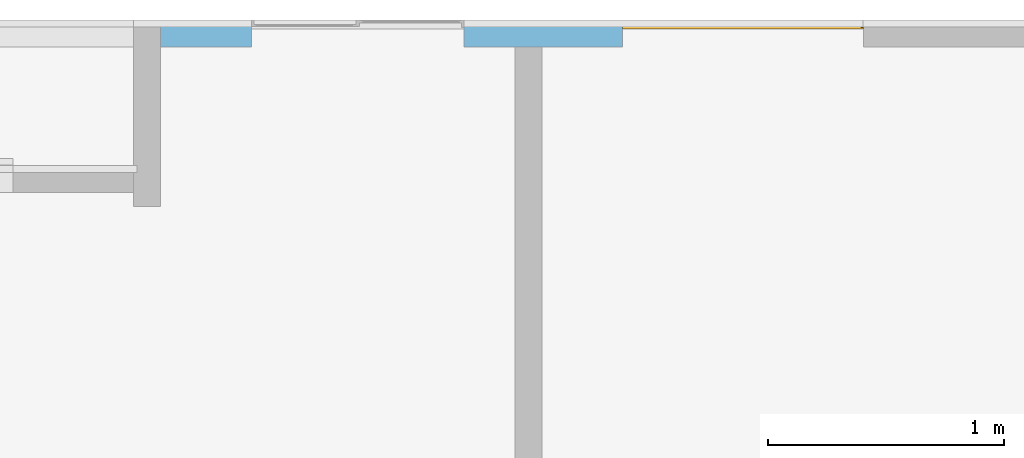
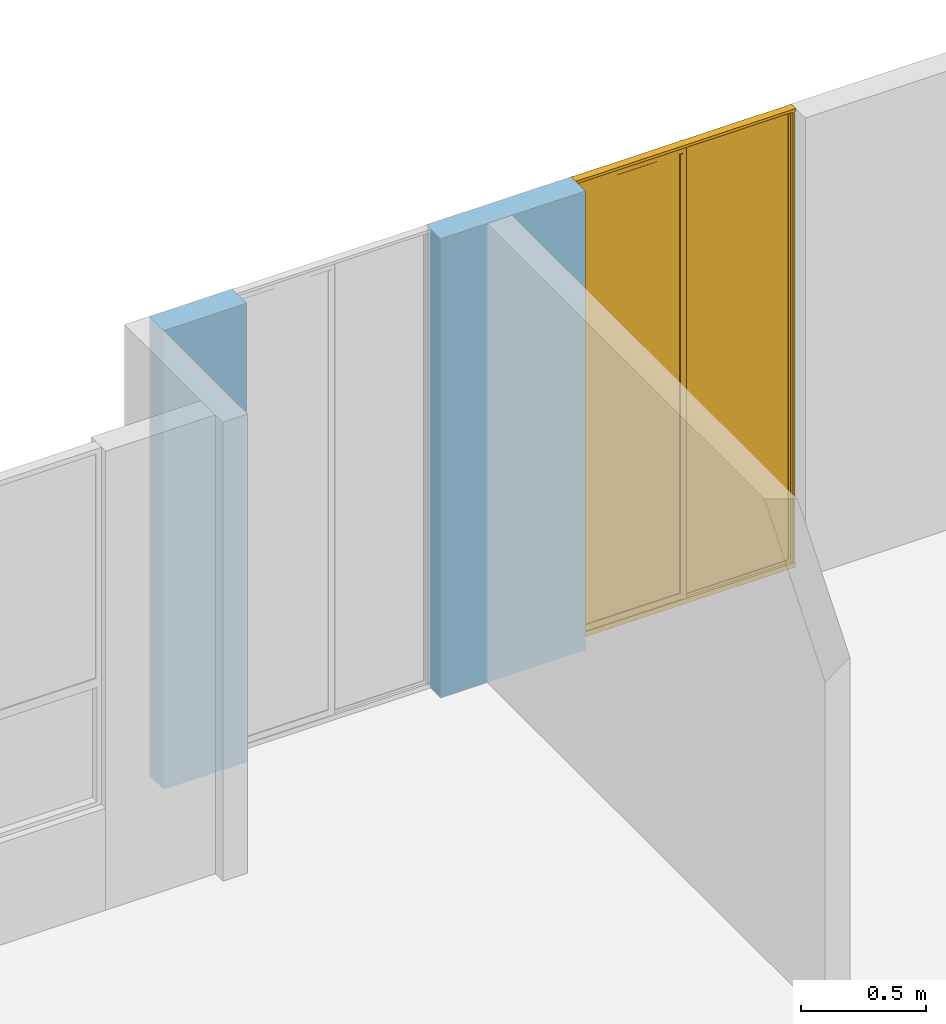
# One storey, part 26 of 51: 1 window, 2 openings, plus 1 element that does not belong to this part.
"""IFC4 building model written with IfcOpenShell, lengths in metres."""

from ifc_helpers import new_model, entity, si_unit, converted_unit, derived_unit, direction, frame, origin, place, context, subcontext, project, spatial, indexed_curve, outline, extrude, polygons, source, transform, mapped, material, constituent, constituent_set, type_object, type_shapes, element, fill, save


model = new_model("IFC4")

# Units and contexts
model_context = context("Model", 3, precision=1e-05, world=origin(), true_north=direction((6.123031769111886e-17, 1.0)))
body_context = subcontext(model_context, "Body", "Model", "MODEL_VIEW")
ifc_project = project(units=[si_unit("LENGTHUNIT", "METRE"), si_unit("AREAUNIT", "SQUARE_METRE"), si_unit("VOLUMEUNIT", "CUBIC_METRE"), converted_unit("PLANEANGLEUNIT", "DEGREE", entity("IfcRatioMeasure", 0.017453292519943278), si_unit("PLANEANGLEUNIT", "RADIAN"), dimensions=[0, 0, 0, 0, 0, 0, 0]), si_unit("MASSUNIT", "GRAM", prefix="KILO"), derived_unit("MASSDENSITYUNIT", [(si_unit("MASSUNIT", "GRAM", prefix="KILO"), 1), (si_unit("LENGTHUNIT", "METRE"), -3)]), derived_unit("IONCONCENTRATIONUNIT", [(si_unit("MASSUNIT", "GRAM", prefix="KILO"), 1), (si_unit("LENGTHUNIT", "METRE"), -3)]), derived_unit("MOMENTOFINERTIAUNIT", [(si_unit("LENGTHUNIT", "METRE"), 4)]), si_unit("TIMEUNIT", "SECOND"), si_unit("FREQUENCYUNIT", "HERTZ"), si_unit("THERMODYNAMICTEMPERATUREUNIT", "DEGREE_CELSIUS"), derived_unit("THERMALTRANSMITTANCEUNIT", [(si_unit("MASSUNIT", "GRAM", prefix="KILO"), 1), (si_unit("THERMODYNAMICTEMPERATUREUNIT", "KELVIN"), -1), (si_unit("TIMEUNIT", "SECOND"), -3)]), derived_unit("THERMALCONDUCTANCEUNIT", [(si_unit("MASSUNIT", "GRAM", prefix="KILO"), 1), (si_unit("THERMODYNAMICTEMPERATUREUNIT", "KELVIN"), -1), (si_unit("TIMEUNIT", "SECOND"), -3), (si_unit("LENGTHUNIT", "METRE"), 1)]), derived_unit("VOLUMETRICFLOWRATEUNIT", [(si_unit("LENGTHUNIT", "METRE"), 3), (si_unit("TIMEUNIT", "SECOND"), -1)]), derived_unit("MASSFLOWRATEUNIT", [(si_unit("MASSUNIT", "GRAM", prefix="KILO"), 1), (si_unit("TIMEUNIT", "SECOND"), -1)]), derived_unit("ROTATIONALFREQUENCYUNIT", [(si_unit("TIMEUNIT", "SECOND"), -1)]), si_unit("ELECTRICCURRENTUNIT", "AMPERE"), si_unit("ELECTRICVOLTAGEUNIT", "VOLT"), si_unit("POWERUNIT", "WATT"), si_unit("FORCEUNIT", "NEWTON", prefix="KILO"), si_unit("ILLUMINANCEUNIT", "LUX"), si_unit("LUMINOUSFLUXUNIT", "LUMEN"), si_unit("LUMINOUSINTENSITYUNIT", "CANDELA"), derived_unit("USERDEFINED", [(si_unit("MASSUNIT", "GRAM", prefix="KILO"), -1), (si_unit("LENGTHUNIT", "METRE"), -2), (si_unit("TIMEUNIT", "SECOND"), 3), (si_unit("LUMINOUSFLUXUNIT", "LUMEN"), 1)]), derived_unit("USERDEFINED", [(si_unit("MASSUNIT", "GRAM", prefix="KILO"), 1), (si_unit("TIMEUNIT", "SECOND"), -3), (si_unit("LENGTHUNIT", "METRE"), 3), (si_unit("ELECTRICCURRENTUNIT", "AMPERE"), -2)]), derived_unit("SOUNDPOWERUNIT", [(si_unit("MASSUNIT", "GRAM", prefix="KILO"), 1), (si_unit("TIMEUNIT", "SECOND"), -3), (si_unit("LENGTHUNIT", "METRE"), 2)]), derived_unit("SOUNDPRESSUREUNIT", [(si_unit("MASSUNIT", "GRAM", prefix="KILO"), 1), (si_unit("LENGTHUNIT", "METRE"), -1), (si_unit("TIMEUNIT", "SECOND"), -2)]), derived_unit("LINEARVELOCITYUNIT", [(si_unit("LENGTHUNIT", "METRE"), 1), (si_unit("TIMEUNIT", "SECOND"), -1)]), si_unit("PRESSUREUNIT", "PASCAL"), derived_unit("USERDEFINED", [(si_unit("MASSUNIT", "GRAM", prefix="KILO"), 1), (si_unit("LENGTHUNIT", "METRE"), -2), (si_unit("TIMEUNIT", "SECOND"), -2)]), derived_unit("LINEARFORCEUNIT", [(si_unit("MASSUNIT", "GRAM", prefix="KILO"), 1), (si_unit("TIMEUNIT", "SECOND"), -2)]), derived_unit("PLANARFORCEUNIT", [(si_unit("MASSUNIT", "GRAM", prefix="KILO"), 1), (si_unit("LENGTHUNIT", "METRE"), -1), (si_unit("TIMEUNIT", "SECOND"), -2)]), derived_unit("SPECIFICHEATCAPACITYUNIT", [(si_unit("THERMODYNAMICTEMPERATUREUNIT", "KELVIN"), -1), (si_unit("LENGTHUNIT", "METRE"), 2), (si_unit("TIMEUNIT", "SECOND"), -2)]), derived_unit("HEATINGVALUEUNIT", [(si_unit("LENGTHUNIT", "METRE"), 2), (si_unit("TIMEUNIT", "SECOND"), -2)]), derived_unit("VAPORPERMEABILITYUNIT", [(si_unit("LENGTHUNIT", "METRE"), -1), (si_unit("TIMEUNIT", "SECOND"), 1)]), derived_unit("DYNAMICVISCOSITYUNIT", [(si_unit("MASSUNIT", "GRAM", prefix="KILO"), 1), (si_unit("TIMEUNIT", "SECOND"), -1), (si_unit("LENGTHUNIT", "METRE"), -1)]), derived_unit("THERMALEXPANSIONCOEFFICIENTUNIT", [(si_unit("THERMODYNAMICTEMPERATUREUNIT", "KELVIN"), -1)]), derived_unit("MODULUSOFELASTICITYUNIT", [(si_unit("MASSUNIT", "GRAM", prefix="KILO"), 1), (si_unit("LENGTHUNIT", "METRE"), -1), (si_unit("TIMEUNIT", "SECOND"), -2)]), derived_unit("ISOTHERMALMOISTURECAPACITYUNIT", [(si_unit("LENGTHUNIT", "METRE"), 3), (si_unit("MASSUNIT", "GRAM", prefix="KILO"), -1)]), derived_unit("MOISTUREDIFFUSIVITYUNIT", [(si_unit("TIMEUNIT", "SECOND"), -1), (si_unit("LENGTHUNIT", "METRE"), 2)])], contexts=[model_context])

# Site, building, storey
site_placement = place(None, origin())
site = spatial("IfcSite", under=ifc_project, at=site_placement, Name="Default", CompositionType="ELEMENT")
building_placement = place(site_placement, origin())
building = spatial("IfcBuilding", under=site, at=building_placement, CompositionType="ELEMENT")
storey_placement = place(building_placement, frame((0.0, 0.0, 2.350000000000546)))
storey = spatial("IfcBuildingStorey", under=building, at=storey_placement, Name="Nivel 2", CompositionType="ELEMENT", Elevation=2.350000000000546)

# Wall, openings, window
ifc_material_1 = material(Name="Ladrillo claro (Aire)", Category="Materials")
wall_type = type_object("IfcWallType", Name="Basic Wall:B2010 - 0.115m - Muro exterior en mampostería - Ladrillo", PredefinedType="STANDARD")
wall_placement = place(storey_placement, frame((12.577500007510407, -0.03750002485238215, 0.0)))
wall = element("IfcWall", 1, at=wall_placement, inside=storey, type_object=wall_type, material=ifc_material_1, Name="Basic Wall:B2010 - 0.115m - Muro exterior en mampostería - Ladrillo", ObjectType="Basic Wall:B2010 - 0.115m - Muro exterior en mampostería - Ladrillo", PredefinedType="NOTDEFINED", context=body_context, shape_type="Tessellation", body=[
    polygons([(0.38500000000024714, -0.0575, 2.250000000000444), (1.1388049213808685e-15, -0.05749999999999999, 2.250000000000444), (1.1388049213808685e-15, -0.05749999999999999, -5.414335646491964e-16), (0.38500000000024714, -0.0575, -5.414335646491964e-16), (-2.3974804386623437e-16, 0.0575, -5.414335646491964e-16), (0.3850000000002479, 0.0575, -5.414335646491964e-16), (0.3850000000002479, 0.05750000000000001, 2.250000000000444), (-2.397480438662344e-16, 0.05750000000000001, 2.250000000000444)], [[[1, 2, 3, 4]], [[3, 5, 6, 4]], [[2, 1, 7, 8]], [[3, 2, 8, 5]], [[1, 4, 6, 7]], [[5, 8, 7, 6]]], closed=True),
    polygons([(1.2850000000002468, 0.0575, -5.414335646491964e-16), (1.2850000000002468, 0.05749999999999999, 2.250000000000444), (1.9557999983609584, 0.05749999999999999, 2.250000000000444), (1.9557999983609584, 0.0575, -5.414335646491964e-16), (1.9557999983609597, -0.05749999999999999, 2.250000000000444), (1.9557999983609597, -0.05749999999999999, -5.414335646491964e-16), (1.285000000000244, -0.05749999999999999, -5.414335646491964e-16), (1.285000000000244, -0.05749999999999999, 2.250000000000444), (1.499999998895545, -0.05749999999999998, 2.250000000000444), (1.6149999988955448, -0.05749999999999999, 2.250000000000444), (1.6149999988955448, -0.05749999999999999, -2.707167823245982e-16), (1.499999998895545, -0.05749999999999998, -2.707167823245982e-16)], [[[1, 2, 3, 4]], [[5, 6, 4, 3]], [[7, 8, 2, 1]], [[2, 8, 9, 10, 5, 3]], [[7, 1, 4, 6, 11, 12]], [[8, 7, 12, 11, 6, 5, 10, 9]]], closed=True),
])
opening_1_placement = place(wall_placement, frame((1.2850000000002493, 0.057499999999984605, 0.0)))
element("IfcOpeningElement", 2, at=opening_1_placement, cuts=wall, Name="B2020 - Ventana corrediza 2C - Aluminio + Vidrio:B2020 - 0.90m x 2.25m - Ventana corrediza 2C - Aluminio + Vidrio:1", PredefinedType="OPENING", context=body_context, shape_type="SweptSolid", body=[
    extrude(outline(indexed_curve([(0.0, -1.3535839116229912e-16), (2.249999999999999, -1.3535839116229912e-16), (2.249999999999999, 0.8999999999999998), (0.0, 0.8999999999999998), (0.0, -1.3535839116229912e-16)], self_intersect=False)), frame((0.0, 0.0, 0.0), z_axis=(0.0, -1.0, 0.0), x_axis=(0.0, 0.0, 1.0)), (0.0, 0.0, 1.0), 0.115),
])
opening_2_placement = place(wall_placement, frame((2.9757999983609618, 0.05749999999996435, 0.0)))
opening_2 = element("IfcOpeningElement", 3, at=opening_2_placement, cuts=wall, Name="B2020 - Ventana corrediza 2C - Aluminio + Vidrio:B2020 - 1.02m x 2.25m - Ventana corrediza 2C - Aluminio + Vidrio:1", PredefinedType="OPENING", context=body_context, shape_type="SweptSolid", body=[
    extrude(outline(indexed_curve([(0.0, -3.129589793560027e-32), (2.249999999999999, -3.129589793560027e-32), (2.249999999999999, 1.0199999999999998), (0.0, 1.0199999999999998), (0.0, -3.129589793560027e-32)], self_intersect=False)), frame((0.0, 0.0, 0.0), z_axis=(0.0, -1.0, 0.0), x_axis=(0.0, 0.0, 1.0)), (0.0, 0.0, 1.0), 0.115),
])
ifc_material_2 = material(Name="Vidrio", Category="Materials")
ifc_constituent_1 = constituent(ifc_material_2, Name="Vidrio", Category="Materials")
ifc_material_3 = material(Name="<Unnamed>")
ifc_constituent_2 = constituent(ifc_material_3, Name="<Unnamed>")
ifc_constituent_set_1 = constituent_set(constituents=[ifc_constituent_1, ifc_constituent_2])
ifc_constituent_3 = constituent(ifc_material_2, Name="Vidrio", Category="Materials")
ifc_constituent_4 = constituent(ifc_material_3, Name="<Unnamed>")
ifc_constituent_set_2 = constituent_set(constituents=[ifc_constituent_3, ifc_constituent_4])
window_type = type_object("IfcWindowType", Name="B2020 - Ventana corrediza 2C - Aluminio + Vidrio:B2020 - 1.02m x 2.25m - Ventana corrediza 2C - Aluminio + Vidrio", PartitioningType="NOTDEFINED", PredefinedType="WINDOW", material=ifc_constituent_set_2)
shared_shape = source(origin(), body_context, "Body", "Tessellation", [
    polygons([(0.5301871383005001, 0.11311505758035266, 0.028641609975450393), (1.0000323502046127, 0.11311505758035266, 0.028641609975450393), (1.0000323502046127, 0.10801372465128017, 0.028641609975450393), (0.5301871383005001, 0.10801372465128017, 0.028641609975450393), (0.5301871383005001, 0.11311505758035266, 2.2347073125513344), (0.5301871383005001, 0.10801372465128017, 2.2347073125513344), (1.0000323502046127, 0.10801372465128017, 2.2347073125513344), (1.0000323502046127, 0.11311505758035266, 2.2347073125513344)], [[[1, 2, 3, 4]], [[5, 1, 4, 6]], [[6, 4, 3, 7]], [[7, 3, 2, 8]], [[8, 2, 1, 5]], [[5, 6, 7, 8]]], closed=True),
    polygons([(0.018846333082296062, 0.0962952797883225, 0.054189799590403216), (0.48827105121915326, 0.0962952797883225, 0.054189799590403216), (0.48827105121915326, 0.0919992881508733, 0.054189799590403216), (0.018846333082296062, 0.0919992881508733, 0.054189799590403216), (0.018846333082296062, 0.0962952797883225, 2.2043993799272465), (0.018846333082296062, 0.0919992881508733, 2.2043993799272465), (0.48827105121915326, 0.0919992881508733, 2.2043993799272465), (0.48827105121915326, 0.0962952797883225, 2.2043993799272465)], [[[1, 2, 3, 4]], [[5, 1, 4, 6]], [[6, 4, 3, 7]], [[7, 3, 2, 8]], [[8, 2, 1, 5]], [[5, 6, 7, 8]]], closed=True),
    polygons([(1.6039969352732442e-14, 0.08248628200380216, 0.020380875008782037), (1.6039969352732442e-14, 0.07981389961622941, 0.020380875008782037), (1.6039969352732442e-14, 0.07981389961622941, 0.025674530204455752), (1.6039969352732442e-14, 0.08106389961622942, 0.025674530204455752), (1.6039969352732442e-14, 0.08106389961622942, 0.02163087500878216), (1.6039969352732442e-14, 0.08373628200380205, 0.02163087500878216), (1.6039969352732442e-14, 0.08373628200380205, 0.017447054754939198), (1.6039969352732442e-14, 0.08932238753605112, 0.017447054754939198), (1.6039969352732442e-14, 0.08932238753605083, 2.24863686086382), (1.6039969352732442e-14, 0.0810593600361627, 2.24863686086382), (1.6039969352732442e-14, 0.0810593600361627, 2.2365872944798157), (1.6039969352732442e-14, 0.07969622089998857, 2.2365872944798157), (1.5972290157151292e-14, 0.07969622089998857, 2.2499999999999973), (1.6039969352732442e-14, 0.11748628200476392, 2.2499999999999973), (1.6039969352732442e-14, 0.11748628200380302, -2.5718094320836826e-15), (1.6039969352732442e-14, 0.08248628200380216, -2.5718094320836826e-15), (1.0200000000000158, 0.08248628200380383, 0.020380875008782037), (1.0200000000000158, 0.08248628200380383, -2.5718094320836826e-15), (1.0200000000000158, 0.11748628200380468, -2.5718094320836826e-15), (0.5166454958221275, 0.11748628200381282, 2.2499999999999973), (0.5166454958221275, 0.11748628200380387, 0.006176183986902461), (1.0100000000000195, 0.11748628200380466, 0.006176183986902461), (1.0100000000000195, 0.11748628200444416, 2.2499999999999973), (1.0200000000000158, 0.11748628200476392, 2.2499999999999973), (0.009897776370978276, 0.11748628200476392, 2.2499999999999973), (0.009897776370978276, 0.11748628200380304, 0.006176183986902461), (0.5033545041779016, 0.11748628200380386, 0.006176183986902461), (0.5033545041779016, 0.11748628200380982, 2.2499999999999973), (0.016298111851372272, 0.08932238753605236, 2.2069861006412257), (0.5033545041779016, 0.08932238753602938, 2.2069861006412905), (0.5033545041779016, 0.08932238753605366, 2.2043993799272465), (0.490819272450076, 0.08932238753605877, 2.2043993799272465), (0.4908192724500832, 0.08932238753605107, 0.0519155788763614), (0.01629811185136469, 0.0893223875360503, 0.0519155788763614), (0.01629811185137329, 0.08932238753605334, 2.237270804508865), (0.01629811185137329, 0.08932238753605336, 2.24863686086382), (0.003762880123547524, 0.08932238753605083, 0.017447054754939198), (0.003762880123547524, 0.08932238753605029, 0.02163087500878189), (0.5033545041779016, 0.08932238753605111, 0.021630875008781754), (0.5033545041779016, 0.08932238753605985, 0.017447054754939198), (0.5180471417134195, 0.08932238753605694, 0.017447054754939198), (0.5180471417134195, 0.08932238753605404, 2.24863686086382), (0.5033545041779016, 0.08932238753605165, 2.24863686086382), (0.5033545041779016, 0.0893223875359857, 2.237270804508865), (1.0200000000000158, 0.0837362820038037, 0.017447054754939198), (1.0200000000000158, 0.08548628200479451, 0.017447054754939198), (1.0100000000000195, 0.08548628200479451, 0.017447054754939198), (1.0100000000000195, 0.09284764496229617, 0.017447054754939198), (0.5180471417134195, 0.09284764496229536, 0.017447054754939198), (0.5033545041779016, 0.09284764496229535, 0.017447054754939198), (0.003762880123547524, 0.09284764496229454, 0.017447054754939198), (1.0200000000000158, 0.0837362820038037, 0.02163087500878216), (1.0200000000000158, 0.08106389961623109, 0.02163087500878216), (1.0200000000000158, 0.08106389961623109, 0.025674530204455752), (1.0200000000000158, 0.07981389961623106, 0.025674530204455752), (1.0200000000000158, 0.07981389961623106, 0.020380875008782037), (0.018842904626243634, 0.09629339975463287, 0.054191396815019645), (0.4882772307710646, 0.09629080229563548, 0.054191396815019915), (0.4908192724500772, 0.09897218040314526, 0.051915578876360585), (0.016298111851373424, 0.0989721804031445, 0.051915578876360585), (0.016298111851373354, 0.09897218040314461, 2.237270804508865), (0.016298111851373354, 0.09897218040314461, 2.24863686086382), (0.01884633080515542, 0.0962732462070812, 2.24863686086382), (0.01884631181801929, 0.0962733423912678, 2.237270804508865), (0.490819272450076, 0.09897218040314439, 2.2043993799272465), (0.5033545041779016, 0.09897218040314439, 2.2043993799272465), (0.5033545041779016, 0.0989721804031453, 0.02163087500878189), (0.009897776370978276, 0.09897218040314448, 0.021630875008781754), (0.009897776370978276, 0.09897218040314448, 2.24863686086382), (0.5033545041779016, 0.0989721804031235, 2.237270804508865), (0.5033545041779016, 0.09897218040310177, 2.2069861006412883), (0.016298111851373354, 0.09897218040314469, 2.206986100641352), (0.48827105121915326, 0.09628607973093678, 2.2043993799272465), (0.018840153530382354, 0.09200376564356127, 0.05419139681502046), (0.488274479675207, 0.0920011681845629, 0.05419139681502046), (0.018846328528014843, 0.09202132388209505, 2.24863686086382), (0.018846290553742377, 0.09202124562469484, 2.237270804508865), (0.48827105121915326, 0.09200839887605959, 2.20439928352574), (0.5180471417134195, 0.09284764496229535, 0.011279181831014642), (0.5180471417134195, 0.0961232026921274, 0.010600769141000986), (0.5180471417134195, 0.09612320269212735, 0.014402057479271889), (0.5180471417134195, 0.10582811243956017, 0.014402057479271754), (0.5180471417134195, 0.1058281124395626, 2.24863686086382), (0.5033545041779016, 0.0919994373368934, 2.2043993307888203), (0.003762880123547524, 0.09897218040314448, 0.021630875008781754), (0.003762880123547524, 0.09284764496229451, 0.011279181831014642), (0.003762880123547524, 0.0989721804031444, 0.010010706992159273), (0.009897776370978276, 0.0989721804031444, 0.010010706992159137), (0.009897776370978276, 0.1153006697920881, 2.2499999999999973), (0.009897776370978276, 0.11530066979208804, 2.2369062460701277), (0.009897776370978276, 0.11310173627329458, 2.2347073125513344), (0.009897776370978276, 0.10802704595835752, 2.2347073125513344), (0.009897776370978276, 0.10582811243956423, 2.2369062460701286), (0.009897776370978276, 0.10582811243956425, 2.24863686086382), (1.0200000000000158, 0.07969622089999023, 2.2499999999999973), (1.0200000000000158, 0.07969622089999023, 2.2365872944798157), (1.0200000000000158, 0.08105936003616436, 2.2365872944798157), (1.0200000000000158, 0.08105936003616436, 2.24863686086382), (1.0200000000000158, 0.08548628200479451, 2.24863686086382), (1.0100000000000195, 0.08548628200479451, 2.24863686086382), (1.0100000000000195, 0.09284764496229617, 0.011279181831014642), (1.0100000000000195, 0.10582811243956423, 2.24863686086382), (1.0100000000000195, 0.10582811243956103, 0.014402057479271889), (1.0100000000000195, 0.09612320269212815, 0.014402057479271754), (1.0100000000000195, 0.09612320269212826, 0.010600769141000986), (0.5166454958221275, 0.11530066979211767, 0.006628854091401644), (0.5166454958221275, 0.11530066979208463, 2.2499999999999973), (1.0100000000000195, 0.11530066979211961, 0.0066288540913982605), (1.0100000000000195, 0.11530066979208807, 2.2499999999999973), (0.5033545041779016, 0.11530066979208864, 2.2499999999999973), (0.5033545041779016, 0.11530066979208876, 2.2369062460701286), (0.5276389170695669, 0.11530066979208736, 0.02682441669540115), (0.5276389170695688, 0.11530066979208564, 2.236906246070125), (0.5301871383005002, 0.1131150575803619, 2.234713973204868), (0.5301871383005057, 0.1131150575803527, 0.028641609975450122), (1.0000323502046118, 0.11311505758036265, 0.028641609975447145), (1.0000323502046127, 0.11311505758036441, 2.2347139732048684), (1.0025805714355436, 0.11530066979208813, 2.236906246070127), (1.002580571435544, 0.1153006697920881, 0.02682441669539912), (1.0000323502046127, 0.10801372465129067, 0.02864160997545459), (0.5301871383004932, 0.10801372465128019, 0.028641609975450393), (0.5276389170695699, 0.10582811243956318, 0.02682441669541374), (1.002580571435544, 0.10582811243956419, 0.026824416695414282), (0.5276389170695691, 0.10582811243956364, 2.2369062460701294), (1.002580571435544, 0.10582811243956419, 2.23690624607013), (1.000031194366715, 0.10801638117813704, 2.2347113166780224), (0.5301882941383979, 0.1080163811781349, 2.234711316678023), (0.5033545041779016, 0.0962951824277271, 2.204399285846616), (0.018846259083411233, 0.09627365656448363, 2.204388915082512), (0.0188444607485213, 0.09201660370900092, 2.2043931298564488), (0.5033545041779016, 0.10582811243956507, 2.24863686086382), (0.5033545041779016, 0.10802704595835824, 2.2347073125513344), (0.5033545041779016, 0.10582811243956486, 2.2369062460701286), (0.5033545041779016, 0.11310173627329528, 2.2347073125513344), (0.5033545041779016, 0.09284764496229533, 0.011279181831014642)], [[[1, 2, 3, 4, 5, 6, 7, 8, 9, 10, 11, 12, 13, 14, 15, 16]], [[17, 1, 16, 18]], [[16, 15, 19, 18]], [[20, 21, 22, 23, 24, 19, 15, 14, 25, 26, 27, 28]], [[35, 36, 9, 8, 37, 38, 39, 40, 41, 42, 43, 44], [29, 30, 31, 32, 33, 34]], [[45, 46, 47, 48, 49, 41, 40, 50, 51, 37, 8, 7]], [[45, 7, 6, 52]], [[52, 6, 5, 53]], [[53, 5, 4, 54]], [[54, 4, 3, 55]], [[55, 3, 2, 56]], [[56, 2, 1, 17]], [[57, 58, 59, 60]], [[61, 62, 63, 64]], [[60, 59, 65, 66, 67, 68, 69, 62, 61, 70, 71, 72]], [[65, 59, 58, 73]], [[74, 75, 58, 57]], [[64, 63, 76, 77]], [[58, 75, 78, 73]], [[34, 33, 75, 74]], [[77, 76, 36, 35]], [[78, 75, 33, 32]], [[49, 79, 80, 81, 82, 83, 42, 41]], [[84, 31, 30]], [[39, 38, 85, 68, 67]], [[85, 38, 37, 51, 86, 87]], [[68, 85, 87, 88]], [[25, 89, 90, 91, 92, 93, 94, 69, 68, 88, 26]], [[17, 18, 19, 24, 95, 96, 97, 98, 99, 46, 45, 52, 53, 54, 55, 56]], [[46, 99, 100, 47]], [[49, 48, 101, 79]], [[47, 100, 102, 103, 104, 105, 101, 48]], [[79, 101, 105, 80]], [[106, 21, 20, 107]], [[23, 22, 108, 109]], [[110, 111, 90, 89]], [[80, 105, 104, 81]], [[112, 113, 114, 115]], [[116, 117, 118, 119]], [[119, 112, 115, 116]], [[120, 121, 122, 123]], [[103, 102, 83, 82], [122, 124, 125, 123]], [[123, 125, 126, 120]], [[121, 127, 124, 122]], [[81, 104, 103, 82]], [[120, 126, 117, 116]], [[116, 115, 121, 120]], [[115, 114, 127, 121]], [[13, 95, 24, 23, 109, 107, 20, 28, 110, 89, 25, 14]], [[72, 71, 128, 73, 129]], [[129, 73, 78, 130]], [[130, 78, 84, 30, 29]], [[77, 35, 44, 70, 61, 64]], [[31, 84, 78, 32]], [[97, 11, 10, 98]], [[96, 12, 11, 97]], [[95, 13, 12, 96]], [[118, 117, 114, 113]], [[127, 114, 117, 126]], [[124, 127, 126, 125]], [[10, 9, 36, 76, 63, 62, 69, 94, 131, 43, 42, 83, 102, 100, 99, 98]], [[132, 133, 93, 92]], [[134, 132, 92, 91]], [[111, 134, 91, 90]], [[73, 128, 66, 65]], [[133, 131, 94, 93]], [[109, 108, 106, 107], [112, 119, 118, 113]], [[106, 108, 22, 21]], [[27, 26, 88, 87, 86, 135]], [[135, 86, 51, 50]], [[27, 135, 50, 40, 39, 67, 66, 128, 71, 70, 44, 43, 131, 133, 132, 134, 111, 110, 28]], [[74, 130, 29, 34]], [[57, 129, 130, 74]], [[60, 72, 129, 57]]], closed=True),
])
type_shapes(window_type, [shared_shape])
window_placement = place(opening_2_placement, frame((-1.0200000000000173, -0.11748628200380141, 0.0)))
window = element("IfcWindow", 4, at=window_placement, inside=storey, type_object=window_type, material=ifc_constituent_set_1, Name="B2020 - Ventana corrediza 2C - Aluminio + Vidrio:B2020 - 1.02m x 2.25m - Ventana corrediza 2C - Aluminio + Vidrio", ObjectType="B2020 - Ventana corrediza 2C - Aluminio + Vidrio:B2020 - 1.02m x 2.25m - Ventana corrediza 2C - Aluminio + Vidrio", OverallHeight=2.249999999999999, OverallWidth=1.0199999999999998, PartitioningType="NOTDEFINED", PredefinedType="WINDOW", context=body_context, shape_type="MappedRepresentation", body=[
    mapped(shared_shape, transform((0.0, 0.0, 0.0), scale=1.0)),
])
fill(opening_2, window)

save(model, "model.ifc")
